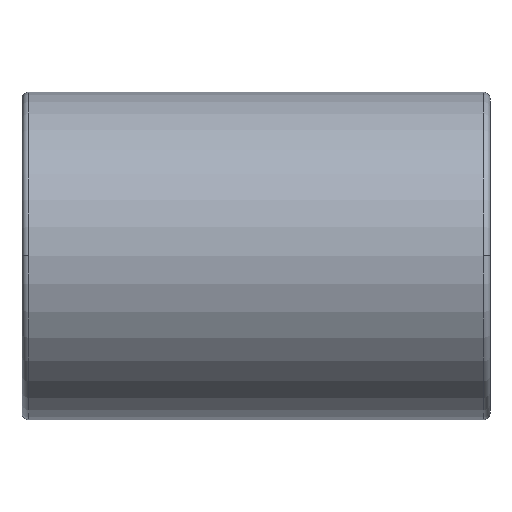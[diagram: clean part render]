
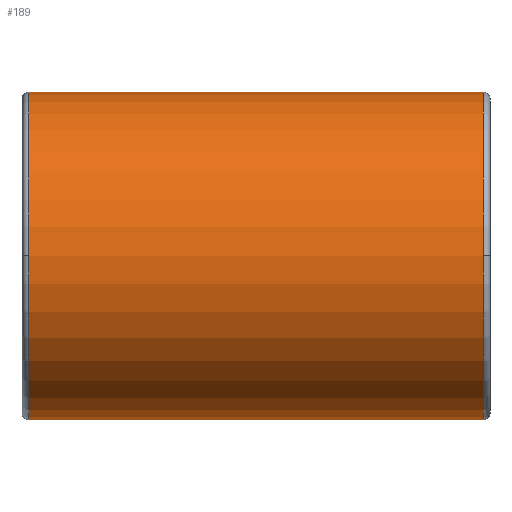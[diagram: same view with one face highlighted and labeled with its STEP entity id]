
A CAD part, top view. The second image highlights one B-rep face of the part: STEP entity #189.
In plain terms, the highlighted cylindrical face has radius 3.5 mm (diameter 7 mm), a partial arc.
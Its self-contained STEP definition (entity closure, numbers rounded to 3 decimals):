
#33 = TOROIDAL_SURFACE('',#34,3.36,0.14);
#34 = AXIS2_PLACEMENT_3D('',#35,#36,#37);
#35 = CARTESIAN_POINT('',(4.86,0.,0.));
#36 = DIRECTION('',(1.,0.,0.));
#37 = DIRECTION('',(0.,0.,-1.));
#45 = TOROIDAL_SURFACE('',#46,3.36,0.14);
#46 = AXIS2_PLACEMENT_3D('',#47,#48,#49);
#47 = CARTESIAN_POINT('',(4.86,0.,0.));
#48 = DIRECTION('',(1.,0.,0.));
#49 = DIRECTION('',(0.,0.,-1.));
#58 = VERTEX_POINT('',#59);
#59 = CARTESIAN_POINT('',(4.86,3.5,0.));
#74 = CYLINDRICAL_SURFACE('',#75,3.5);
#75 = AXIS2_PLACEMENT_3D('',#76,#77,#78);
#76 = CARTESIAN_POINT('',(0.,0.,0.));
#77 = DIRECTION('',(1.,0.,0.));
#78 = DIRECTION('',(-0.,1.,0.));
#86 = EDGE_CURVE('',#58,#87,#89,.T.);
#87 = VERTEX_POINT('',#88);
#88 = CARTESIAN_POINT('',(4.86,0.,3.5));
#89 = SURFACE_CURVE('',#90,(#95,#102),.PCURVE_S1.);
#90 = CIRCLE('',#91,3.5);
#91 = AXIS2_PLACEMENT_3D('',#92,#93,#94);
#92 = CARTESIAN_POINT('',(4.86,0.,0.));
#93 = DIRECTION('',(1.,0.,0.));
#94 = DIRECTION('',(-0.,1.,0.));
#95 = PCURVE('',#33,#96);
#96 = DEFINITIONAL_REPRESENTATION('',(#97),#101);
#97 = LINE('',#98,#99);
#98 = CARTESIAN_POINT('',(1.571,0.));
#99 = VECTOR('',#100,1.);
#100 = DIRECTION('',(1.,0.));
#101 = ( GEOMETRIC_REPRESENTATION_CONTEXT(2) 
PARAMETRIC_REPRESENTATION_CONTEXT() REPRESENTATION_CONTEXT('2D SPACE',''
  ) );
#102 = PCURVE('',#103,#108);
#103 = CYLINDRICAL_SURFACE('',#104,3.5);
#104 = AXIS2_PLACEMENT_3D('',#105,#106,#107);
#105 = CARTESIAN_POINT('',(0.,0.,0.));
#106 = DIRECTION('',(1.,0.,0.));
#107 = DIRECTION('',(-0.,1.,0.));
#108 = DEFINITIONAL_REPRESENTATION('',(#109),#113);
#109 = LINE('',#110,#111);
#110 = CARTESIAN_POINT('',(0.,4.86));
#111 = VECTOR('',#112,1.);
#112 = DIRECTION('',(1.,0.));
#113 = ( GEOMETRIC_REPRESENTATION_CONTEXT(2) 
PARAMETRIC_REPRESENTATION_CONTEXT() REPRESENTATION_CONTEXT('2D SPACE',''
  ) );
#189 = ADVANCED_FACE('',(#190),#103,.T.);
#190 = FACE_BOUND('',#191,.T.);
#191 = EDGE_LOOP('',(#192,#215,#244,#273,#296,#318));
#192 = ORIENTED_EDGE('',*,*,#193,.F.);
#193 = EDGE_CURVE('',#194,#58,#196,.T.);
#194 = VERTEX_POINT('',#195);
#195 = CARTESIAN_POINT('',(-4.86,3.5,0.));
#196 = SURFACE_CURVE('',#197,(#201,#208),.PCURVE_S1.);
#197 = LINE('',#198,#199);
#198 = CARTESIAN_POINT('',(0.,3.5,0.));
#199 = VECTOR('',#200,1.);
#200 = DIRECTION('',(1.,0.,0.));
#201 = PCURVE('',#103,#202);
#202 = DEFINITIONAL_REPRESENTATION('',(#203),#207);
#203 = LINE('',#204,#205);
#204 = CARTESIAN_POINT('',(0.,0.));
#205 = VECTOR('',#206,1.);
#206 = DIRECTION('',(0.,1.));
#207 = ( GEOMETRIC_REPRESENTATION_CONTEXT(2) 
PARAMETRIC_REPRESENTATION_CONTEXT() REPRESENTATION_CONTEXT('2D SPACE',''
  ) );
#208 = PCURVE('',#74,#209);
#209 = DEFINITIONAL_REPRESENTATION('',(#210),#214);
#210 = LINE('',#211,#212);
#211 = CARTESIAN_POINT('',(6.283,0.));
#212 = VECTOR('',#213,1.);
#213 = DIRECTION('',(0.,1.));
#214 = ( GEOMETRIC_REPRESENTATION_CONTEXT(2) 
PARAMETRIC_REPRESENTATION_CONTEXT() REPRESENTATION_CONTEXT('2D SPACE',''
  ) );
#215 = ORIENTED_EDGE('',*,*,#216,.T.);
#216 = EDGE_CURVE('',#194,#217,#219,.T.);
#217 = VERTEX_POINT('',#218);
#218 = CARTESIAN_POINT('',(-4.86,0.,3.5));
#219 = SURFACE_CURVE('',#220,(#225,#232),.PCURVE_S1.);
#220 = CIRCLE('',#221,3.5);
#221 = AXIS2_PLACEMENT_3D('',#222,#223,#224);
#222 = CARTESIAN_POINT('',(-4.86,0.,0.));
#223 = DIRECTION('',(1.,0.,0.));
#224 = DIRECTION('',(-0.,1.,0.));
#225 = PCURVE('',#103,#226);
#226 = DEFINITIONAL_REPRESENTATION('',(#227),#231);
#227 = LINE('',#228,#229);
#228 = CARTESIAN_POINT('',(0.,-4.86));
#229 = VECTOR('',#230,1.);
#230 = DIRECTION('',(1.,0.));
#231 = ( GEOMETRIC_REPRESENTATION_CONTEXT(2) 
PARAMETRIC_REPRESENTATION_CONTEXT() REPRESENTATION_CONTEXT('2D SPACE',''
  ) );
#232 = PCURVE('',#233,#238);
#233 = TOROIDAL_SURFACE('',#234,3.36,0.14);
#234 = AXIS2_PLACEMENT_3D('',#235,#236,#237);
#235 = CARTESIAN_POINT('',(-4.86,0.,0.));
#236 = DIRECTION('',(1.,0.,0.));
#237 = DIRECTION('',(0.,0.,-1.));
#238 = DEFINITIONAL_REPRESENTATION('',(#239),#243);
#239 = LINE('',#240,#241);
#240 = CARTESIAN_POINT('',(1.571,6.283));
#241 = VECTOR('',#242,1.);
#242 = DIRECTION('',(1.,0.));
#243 = ( GEOMETRIC_REPRESENTATION_CONTEXT(2) 
PARAMETRIC_REPRESENTATION_CONTEXT() REPRESENTATION_CONTEXT('2D SPACE',''
  ) );
#244 = ORIENTED_EDGE('',*,*,#245,.T.);
#245 = EDGE_CURVE('',#217,#246,#248,.T.);
#246 = VERTEX_POINT('',#247);
#247 = CARTESIAN_POINT('',(-4.86,-3.5,0.));
#248 = SURFACE_CURVE('',#249,(#254,#261),.PCURVE_S1.);
#249 = CIRCLE('',#250,3.5);
#250 = AXIS2_PLACEMENT_3D('',#251,#252,#253);
#251 = CARTESIAN_POINT('',(-4.86,0.,0.));
#252 = DIRECTION('',(1.,0.,0.));
#253 = DIRECTION('',(-0.,1.,0.));
#254 = PCURVE('',#103,#255);
#255 = DEFINITIONAL_REPRESENTATION('',(#256),#260);
#256 = LINE('',#257,#258);
#257 = CARTESIAN_POINT('',(0.,-4.86));
#258 = VECTOR('',#259,1.);
#259 = DIRECTION('',(1.,0.));
#260 = ( GEOMETRIC_REPRESENTATION_CONTEXT(2) 
PARAMETRIC_REPRESENTATION_CONTEXT() REPRESENTATION_CONTEXT('2D SPACE',''
  ) );
#261 = PCURVE('',#262,#267);
#262 = TOROIDAL_SURFACE('',#263,3.36,0.14);
#263 = AXIS2_PLACEMENT_3D('',#264,#265,#266);
#264 = CARTESIAN_POINT('',(-4.86,0.,0.));
#265 = DIRECTION('',(1.,0.,0.));
#266 = DIRECTION('',(0.,0.,-1.));
#267 = DEFINITIONAL_REPRESENTATION('',(#268),#272);
#268 = LINE('',#269,#270);
#269 = CARTESIAN_POINT('',(1.571,6.283));
#270 = VECTOR('',#271,1.);
#271 = DIRECTION('',(1.,0.));
#272 = ( GEOMETRIC_REPRESENTATION_CONTEXT(2) 
PARAMETRIC_REPRESENTATION_CONTEXT() REPRESENTATION_CONTEXT('2D SPACE',''
  ) );
#273 = ORIENTED_EDGE('',*,*,#274,.F.);
#274 = EDGE_CURVE('',#275,#246,#277,.T.);
#275 = VERTEX_POINT('',#276);
#276 = CARTESIAN_POINT('',(4.86,-3.5,0.));
#277 = SURFACE_CURVE('',#278,(#282,#289),.PCURVE_S1.);
#278 = LINE('',#279,#280);
#279 = CARTESIAN_POINT('',(0.,-3.5,0.));
#280 = VECTOR('',#281,1.);
#281 = DIRECTION('',(-1.,-0.,-0.));
#282 = PCURVE('',#103,#283);
#283 = DEFINITIONAL_REPRESENTATION('',(#284),#288);
#284 = LINE('',#285,#286);
#285 = CARTESIAN_POINT('',(3.142,0.));
#286 = VECTOR('',#287,1.);
#287 = DIRECTION('',(0.,-1.));
#288 = ( GEOMETRIC_REPRESENTATION_CONTEXT(2) 
PARAMETRIC_REPRESENTATION_CONTEXT() REPRESENTATION_CONTEXT('2D SPACE',''
  ) );
#289 = PCURVE('',#74,#290);
#290 = DEFINITIONAL_REPRESENTATION('',(#291),#295);
#291 = LINE('',#292,#293);
#292 = CARTESIAN_POINT('',(3.142,0.));
#293 = VECTOR('',#294,1.);
#294 = DIRECTION('',(0.,-1.));
#295 = ( GEOMETRIC_REPRESENTATION_CONTEXT(2) 
PARAMETRIC_REPRESENTATION_CONTEXT() REPRESENTATION_CONTEXT('2D SPACE',''
  ) );
#296 = ORIENTED_EDGE('',*,*,#297,.F.);
#297 = EDGE_CURVE('',#87,#275,#298,.T.);
#298 = SURFACE_CURVE('',#299,(#304,#311),.PCURVE_S1.);
#299 = CIRCLE('',#300,3.5);
#300 = AXIS2_PLACEMENT_3D('',#301,#302,#303);
#301 = CARTESIAN_POINT('',(4.86,0.,0.));
#302 = DIRECTION('',(1.,0.,0.));
#303 = DIRECTION('',(-0.,1.,0.));
#304 = PCURVE('',#103,#305);
#305 = DEFINITIONAL_REPRESENTATION('',(#306),#310);
#306 = LINE('',#307,#308);
#307 = CARTESIAN_POINT('',(0.,4.86));
#308 = VECTOR('',#309,1.);
#309 = DIRECTION('',(1.,0.));
#310 = ( GEOMETRIC_REPRESENTATION_CONTEXT(2) 
PARAMETRIC_REPRESENTATION_CONTEXT() REPRESENTATION_CONTEXT('2D SPACE',''
  ) );
#311 = PCURVE('',#45,#312);
#312 = DEFINITIONAL_REPRESENTATION('',(#313),#317);
#313 = LINE('',#314,#315);
#314 = CARTESIAN_POINT('',(1.571,0.));
#315 = VECTOR('',#316,1.);
#316 = DIRECTION('',(1.,0.));
#317 = ( GEOMETRIC_REPRESENTATION_CONTEXT(2) 
PARAMETRIC_REPRESENTATION_CONTEXT() REPRESENTATION_CONTEXT('2D SPACE',''
  ) );
#318 = ORIENTED_EDGE('',*,*,#86,.F.);
